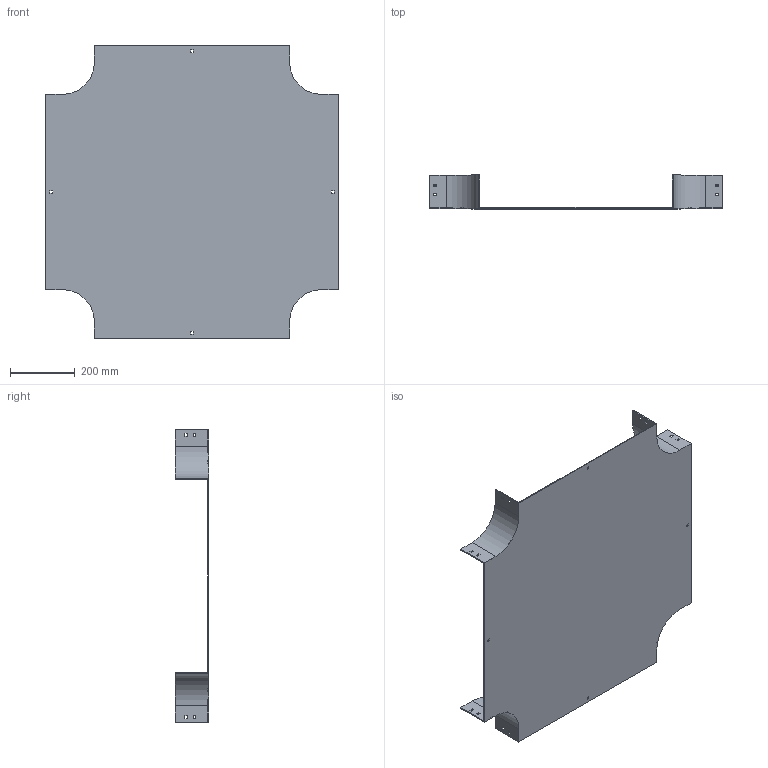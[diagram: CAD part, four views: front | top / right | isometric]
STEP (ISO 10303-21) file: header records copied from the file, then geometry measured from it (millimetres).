
FILE_DESCRIPTION (( 'STEP AP214' ), '1' );
FILE_NAME ('17B1D600.step', '2025-02-21T09:56:27', ( '' ), ( '' ), 'SwSTEP 2.0', 'SolidWorks 2023', '' );
FILE_SCHEMA (( 'AUTOMOTIVE_DESIGN' ));
Length unit declared in the file: millimetre
Products named in the file (1): 17B1D600
Bounding box: 904 x 104 x 904 mm (x, y, z)
Volume: 2936140 mm3; surface area: 1695001.4 mm2
Topology: 1 solids, 1 shells, 114 faces, 336 edges, 224 vertices
Faces by surface type: plane 106, cylinder 8
Entity records: 3839 total; most frequent: CARTESIAN_POINT 675, ORIENTED_EDGE 672, DIRECTION 582, EDGE_CURVE 336, LINE 320, VECTOR 320, VERTEX_POINT 224, EDGE_LOOP 154
